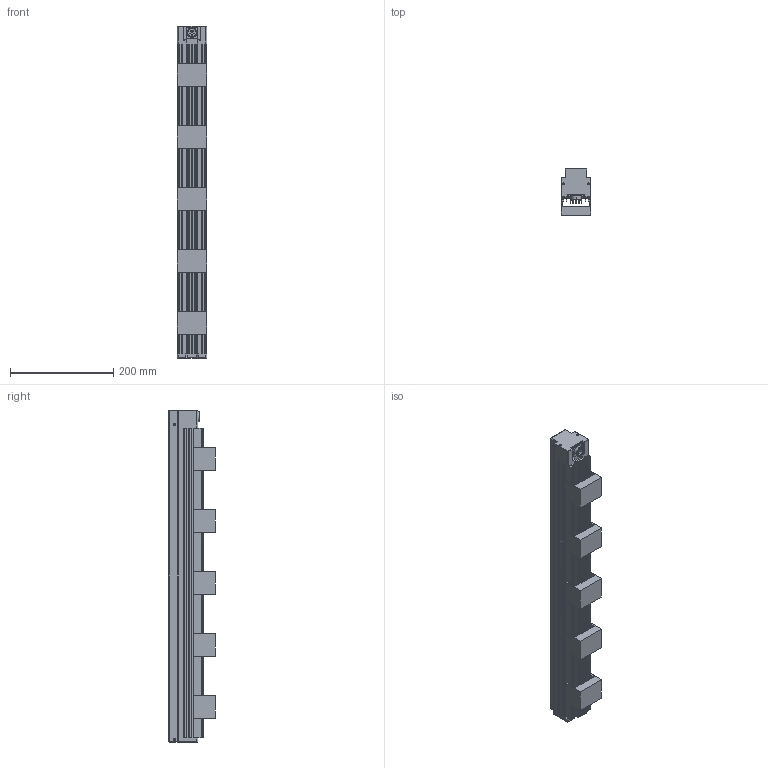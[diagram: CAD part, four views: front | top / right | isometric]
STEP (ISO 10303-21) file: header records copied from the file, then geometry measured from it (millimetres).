
FILE_DESCRIPTION((''),'2;1');
FILE_NAME('MV-LTHS-600-W','2019-09-19T',('win7'),(''),'PRO/ENGINEER BY PARAMETRIC TECHNOLOGY CORPORATION, 2010100','PRO/ENGINEER BY PARAMETRIC TECHNOLOGY CORPORATION, 2010100','');
FILE_SCHEMA(('CONFIG_CONTROL_DESIGN'));
Length unit declared in the file: millimetre
Products named in the file (1): MV-LTHS-600-W
Bounding box: 58 x 90.1 x 643 mm (x, y, z)
Volume: 2102772 mm3; surface area: 341452.2 mm2
Topology: 1 solids, 9 shells, 366 faces, 990 edges, 622 vertices
Faces by surface type: plane 252, cylinder 88, cone 26
Entity records: 11256 total; most frequent: CARTESIAN_POINT 1984, DIRECTION 1900, ORIENTED_EDGE 1896, EDGE_CURVE 970, VECTOR 762, LINE 762, VERTEX_POINT 622, AXIS2_PLACEMENT_3D 569
